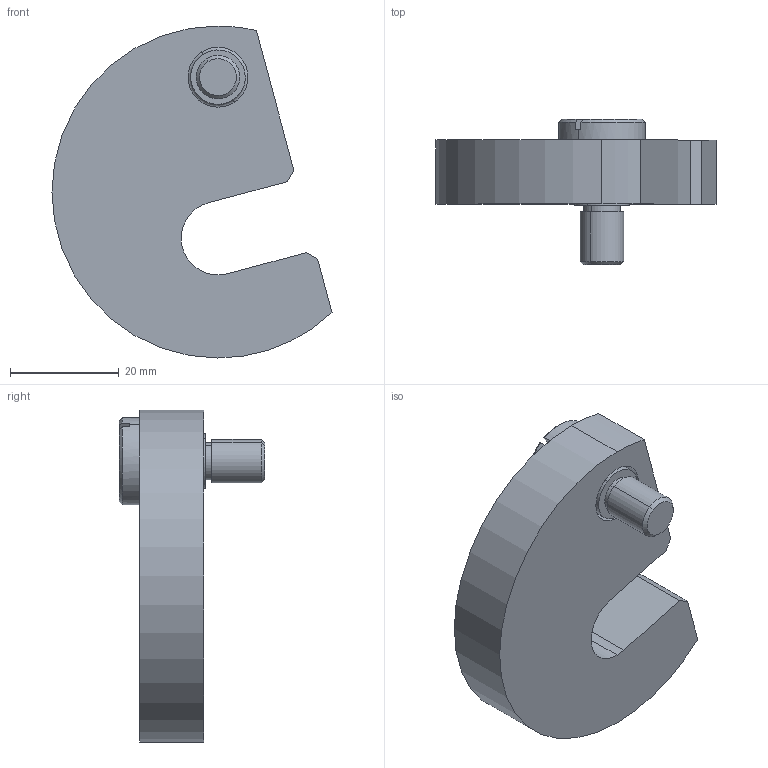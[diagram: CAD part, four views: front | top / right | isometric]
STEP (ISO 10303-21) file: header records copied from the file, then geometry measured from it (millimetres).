
FILE_DESCRIPTION (( 'STEP AP203' ), '1' );
FILE_NAME ('3662.W012.step', '2009-12-03T10:14:26', ( 'Wixroyd' ), ( 'Wixroyd' ), 'SwSTEP 2.0', 'SolidWorks 2009', '' );
FILE_SCHEMA (( 'CONFIG_CONTROL_DESIGN' ));
Length unit declared in the file: millimetre
Products named in the file (3): Part1_3662W012; Part2_3670W008; 3662.W012
Assembly tree (2 placements, depth 2):
  3662.W012
    Part2_3670W008
    Part1_3662W012
Bounding box: 51.45 x 26.8 x 61 mm (x, y, z)
Volume: 24806.6 mm3; surface area: 8112.5 mm2
Topology: 2 solids, 2 shells, 38 faces, 89 edges, 58 vertices
Faces by surface type: plane 17, cylinder 15, cone 4, torus 2
Entity records: 1416 total; most frequent: DIRECTION 213, CARTESIAN_POINT 202, ORIENTED_EDGE 178, EDGE_CURVE 89, AXIS2_PLACEMENT_3D 85, VERTEX_POINT 58, EDGE_LOOP 43, VECTOR 43
